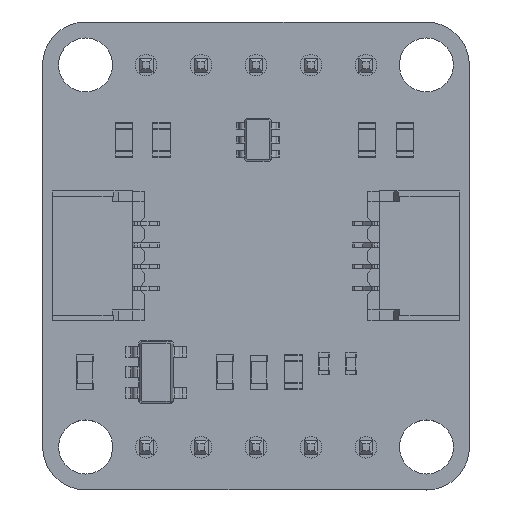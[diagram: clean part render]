
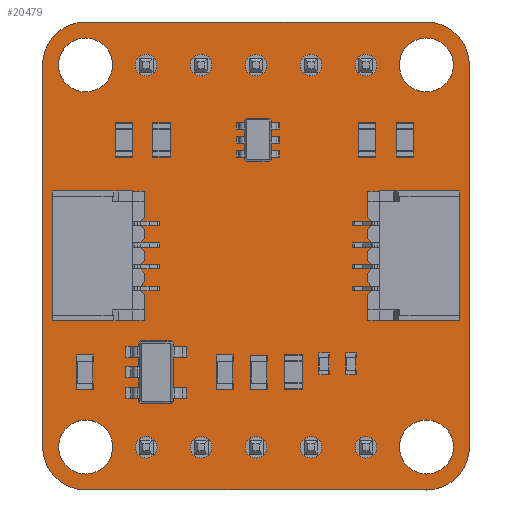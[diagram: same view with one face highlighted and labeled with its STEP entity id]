
A CAD part, top view. The second image highlights one B-rep face of the part: STEP entity #20479.
In plain terms, the highlighted planar face has unit normal (0, 0, 1).
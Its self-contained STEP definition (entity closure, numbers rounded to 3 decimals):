
#20176 = VERTEX_POINT('',#20177);
#20177 = CARTESIAN_POINT('',(154.494,-58.801,1.6));
#20183 = EDGE_CURVE('',#20176,#20184,#20186,.T.);
#20184 = VERTEX_POINT('',#20185);
#20185 = CARTESIAN_POINT('',(156.48,-60.787,1.6));
#20186 = CIRCLE('',#20187,1.986);
#20187 = AXIS2_PLACEMENT_3D('',#20188,#20189,#20190);
#20188 = CARTESIAN_POINT('',(154.494,-60.787,1.6));
#20189 = DIRECTION('',(0.,0.,-1.));
#20190 = DIRECTION('',(0.,1.,0.));
#20218 = VERTEX_POINT('',#20219);
#20219 = CARTESIAN_POINT('',(138.735,-58.801,1.6));
#20225 = EDGE_CURVE('',#20218,#20176,#20226,.T.);
#20226 = LINE('',#20227,#20228);
#20227 = CARTESIAN_POINT('',(138.735,-58.801,1.6));
#20228 = VECTOR('',#20229,1.);
#20229 = DIRECTION('',(1.,0.,0.));
#20247 = EDGE_CURVE('',#20184,#20248,#20250,.T.);
#20248 = VERTEX_POINT('',#20249);
#20249 = CARTESIAN_POINT('',(156.486,-78.452,1.6));
#20250 = LINE('',#20251,#20252);
#20251 = CARTESIAN_POINT('',(156.48,-60.787,1.6));
#20252 = VECTOR('',#20253,1.);
#20253 = DIRECTION('',(0.,-1.,0.));
#20479 = ADVANCED_FACE('',(#20480,#20526,#20537,#20548,#20559,#20570,
    #20581,#20592,#20603,#20614,#20625,#20636,#20647,#20658,#20669),
  #20680,.T.);
#20480 = FACE_BOUND('',#20481,.T.);
#20481 = EDGE_LOOP('',(#20482,#20483,#20484,#20493,#20501,#20510,#20518,
    #20525));
#20482 = ORIENTED_EDGE('',*,*,#20183,.F.);
#20483 = ORIENTED_EDGE('',*,*,#20225,.F.);
#20484 = ORIENTED_EDGE('',*,*,#20485,.F.);
#20485 = EDGE_CURVE('',#20486,#20218,#20488,.T.);
#20486 = VERTEX_POINT('',#20487);
#20487 = CARTESIAN_POINT('',(136.749,-60.787,1.6));
#20488 = CIRCLE('',#20489,1.986);
#20489 = AXIS2_PLACEMENT_3D('',#20490,#20491,#20492);
#20490 = CARTESIAN_POINT('',(138.735,-60.787,1.6));
#20491 = DIRECTION('',(0.,0.,-1.));
#20492 = DIRECTION('',(-1.,0.,-0.));
#20493 = ORIENTED_EDGE('',*,*,#20494,.F.);
#20494 = EDGE_CURVE('',#20495,#20486,#20497,.T.);
#20495 = VERTEX_POINT('',#20496);
#20496 = CARTESIAN_POINT('',(136.755,-78.452,1.6));
#20497 = LINE('',#20498,#20499);
#20498 = CARTESIAN_POINT('',(136.755,-78.452,1.6));
#20499 = VECTOR('',#20500,1.);
#20500 = DIRECTION('',(0.,1.,0.));
#20501 = ORIENTED_EDGE('',*,*,#20502,.F.);
#20502 = EDGE_CURVE('',#20503,#20495,#20505,.T.);
#20503 = VERTEX_POINT('',#20504);
#20504 = CARTESIAN_POINT('',(138.741,-80.438,1.6));
#20505 = CIRCLE('',#20506,1.986);
#20506 = AXIS2_PLACEMENT_3D('',#20507,#20508,#20509);
#20507 = CARTESIAN_POINT('',(138.741,-78.452,1.6));
#20508 = DIRECTION('',(0.,0.,-1.));
#20509 = DIRECTION('',(0.,-1.,-0.));
#20510 = ORIENTED_EDGE('',*,*,#20511,.F.);
#20511 = EDGE_CURVE('',#20512,#20503,#20514,.T.);
#20512 = VERTEX_POINT('',#20513);
#20513 = CARTESIAN_POINT('',(154.5,-80.438,1.6));
#20514 = LINE('',#20515,#20516);
#20515 = CARTESIAN_POINT('',(154.5,-80.438,1.6));
#20516 = VECTOR('',#20517,1.);
#20517 = DIRECTION('',(-1.,0.,0.));
#20518 = ORIENTED_EDGE('',*,*,#20519,.F.);
#20519 = EDGE_CURVE('',#20248,#20512,#20520,.T.);
#20520 = CIRCLE('',#20521,1.986);
#20521 = AXIS2_PLACEMENT_3D('',#20522,#20523,#20524);
#20522 = CARTESIAN_POINT('',(154.5,-78.452,1.6));
#20523 = DIRECTION('',(0.,0.,-1.));
#20524 = DIRECTION('',(1.,0.,0.));
#20525 = ORIENTED_EDGE('',*,*,#20247,.F.);
#20526 = FACE_BOUND('',#20527,.T.);
#20527 = EDGE_LOOP('',(#20528));
#20528 = ORIENTED_EDGE('',*,*,#20529,.T.);
#20529 = EDGE_CURVE('',#20530,#20530,#20532,.T.);
#20530 = VERTEX_POINT('',#20531);
#20531 = CARTESIAN_POINT('',(138.741,-79.702,1.6));
#20532 = CIRCLE('',#20533,1.25);
#20533 = AXIS2_PLACEMENT_3D('',#20534,#20535,#20536);
#20534 = CARTESIAN_POINT('',(138.741,-78.452,1.6));
#20535 = DIRECTION('',(-0.,0.,-1.));
#20536 = DIRECTION('',(-0.,-1.,0.));
#20537 = FACE_BOUND('',#20538,.T.);
#20538 = EDGE_LOOP('',(#20539));
#20539 = ORIENTED_EDGE('',*,*,#20540,.T.);
#20540 = EDGE_CURVE('',#20541,#20541,#20543,.T.);
#20541 = VERTEX_POINT('',#20542);
#20542 = CARTESIAN_POINT('',(141.542,-78.967,1.6));
#20543 = CIRCLE('',#20544,0.5);
#20544 = AXIS2_PLACEMENT_3D('',#20545,#20546,#20547);
#20545 = CARTESIAN_POINT('',(141.542,-78.467,1.6));
#20546 = DIRECTION('',(-0.,0.,-1.));
#20547 = DIRECTION('',(-0.,-1.,0.));
#20548 = FACE_BOUND('',#20549,.T.);
#20549 = EDGE_LOOP('',(#20550));
#20550 = ORIENTED_EDGE('',*,*,#20551,.T.);
#20551 = EDGE_CURVE('',#20552,#20552,#20554,.T.);
#20552 = VERTEX_POINT('',#20553);
#20553 = CARTESIAN_POINT('',(144.082,-78.967,1.6));
#20554 = CIRCLE('',#20555,0.5);
#20555 = AXIS2_PLACEMENT_3D('',#20556,#20557,#20558);
#20556 = CARTESIAN_POINT('',(144.082,-78.467,1.6));
#20557 = DIRECTION('',(-0.,0.,-1.));
#20558 = DIRECTION('',(-0.,-1.,0.));
#20559 = FACE_BOUND('',#20560,.T.);
#20560 = EDGE_LOOP('',(#20561));
#20561 = ORIENTED_EDGE('',*,*,#20562,.T.);
#20562 = EDGE_CURVE('',#20563,#20563,#20565,.T.);
#20563 = VERTEX_POINT('',#20564);
#20564 = CARTESIAN_POINT('',(146.622,-78.967,1.6));
#20565 = CIRCLE('',#20566,0.5);
#20566 = AXIS2_PLACEMENT_3D('',#20567,#20568,#20569);
#20567 = CARTESIAN_POINT('',(146.622,-78.467,1.6));
#20568 = DIRECTION('',(-0.,0.,-1.));
#20569 = DIRECTION('',(-0.,-1.,0.));
#20570 = FACE_BOUND('',#20571,.T.);
#20571 = EDGE_LOOP('',(#20572));
#20572 = ORIENTED_EDGE('',*,*,#20573,.T.);
#20573 = EDGE_CURVE('',#20574,#20574,#20576,.T.);
#20574 = VERTEX_POINT('',#20575);
#20575 = CARTESIAN_POINT('',(149.162,-78.967,1.6));
#20576 = CIRCLE('',#20577,0.5);
#20577 = AXIS2_PLACEMENT_3D('',#20578,#20579,#20580);
#20578 = CARTESIAN_POINT('',(149.162,-78.467,1.6));
#20579 = DIRECTION('',(-0.,0.,-1.));
#20580 = DIRECTION('',(-0.,-1.,0.));
#20581 = FACE_BOUND('',#20582,.T.);
#20582 = EDGE_LOOP('',(#20583));
#20583 = ORIENTED_EDGE('',*,*,#20584,.T.);
#20584 = EDGE_CURVE('',#20585,#20585,#20587,.T.);
#20585 = VERTEX_POINT('',#20586);
#20586 = CARTESIAN_POINT('',(151.702,-78.967,1.6));
#20587 = CIRCLE('',#20588,0.5);
#20588 = AXIS2_PLACEMENT_3D('',#20589,#20590,#20591);
#20589 = CARTESIAN_POINT('',(151.702,-78.467,1.6));
#20590 = DIRECTION('',(-0.,0.,-1.));
#20591 = DIRECTION('',(-0.,-1.,0.));
#20592 = FACE_BOUND('',#20593,.T.);
#20593 = EDGE_LOOP('',(#20594));
#20594 = ORIENTED_EDGE('',*,*,#20595,.T.);
#20595 = EDGE_CURVE('',#20596,#20596,#20598,.T.);
#20596 = VERTEX_POINT('',#20597);
#20597 = CARTESIAN_POINT('',(154.5,-79.702,1.6));
#20598 = CIRCLE('',#20599,1.25);
#20599 = AXIS2_PLACEMENT_3D('',#20600,#20601,#20602);
#20600 = CARTESIAN_POINT('',(154.5,-78.452,1.6));
#20601 = DIRECTION('',(-0.,0.,-1.));
#20602 = DIRECTION('',(-0.,-1.,0.));
#20603 = FACE_BOUND('',#20604,.T.);
#20604 = EDGE_LOOP('',(#20605));
#20605 = ORIENTED_EDGE('',*,*,#20606,.T.);
#20606 = EDGE_CURVE('',#20607,#20607,#20609,.T.);
#20607 = VERTEX_POINT('',#20608);
#20608 = CARTESIAN_POINT('',(138.735,-62.037,1.6));
#20609 = CIRCLE('',#20610,1.25);
#20610 = AXIS2_PLACEMENT_3D('',#20611,#20612,#20613);
#20611 = CARTESIAN_POINT('',(138.735,-60.787,1.6));
#20612 = DIRECTION('',(-0.,0.,-1.));
#20613 = DIRECTION('',(-0.,-1.,0.));
#20614 = FACE_BOUND('',#20615,.T.);
#20615 = EDGE_LOOP('',(#20616));
#20616 = ORIENTED_EDGE('',*,*,#20617,.T.);
#20617 = EDGE_CURVE('',#20618,#20618,#20620,.T.);
#20618 = VERTEX_POINT('',#20619);
#20619 = CARTESIAN_POINT('',(141.537,-61.297,1.6));
#20620 = CIRCLE('',#20621,0.5);
#20621 = AXIS2_PLACEMENT_3D('',#20622,#20623,#20624);
#20622 = CARTESIAN_POINT('',(141.537,-60.797,1.6));
#20623 = DIRECTION('',(-0.,0.,-1.));
#20624 = DIRECTION('',(-0.,-1.,0.));
#20625 = FACE_BOUND('',#20626,.T.);
#20626 = EDGE_LOOP('',(#20627));
#20627 = ORIENTED_EDGE('',*,*,#20628,.T.);
#20628 = EDGE_CURVE('',#20629,#20629,#20631,.T.);
#20629 = VERTEX_POINT('',#20630);
#20630 = CARTESIAN_POINT('',(144.077,-61.297,1.6));
#20631 = CIRCLE('',#20632,0.5);
#20632 = AXIS2_PLACEMENT_3D('',#20633,#20634,#20635);
#20633 = CARTESIAN_POINT('',(144.077,-60.797,1.6));
#20634 = DIRECTION('',(-0.,0.,-1.));
#20635 = DIRECTION('',(-0.,-1.,0.));
#20636 = FACE_BOUND('',#20637,.T.);
#20637 = EDGE_LOOP('',(#20638));
#20638 = ORIENTED_EDGE('',*,*,#20639,.T.);
#20639 = EDGE_CURVE('',#20640,#20640,#20642,.T.);
#20640 = VERTEX_POINT('',#20641);
#20641 = CARTESIAN_POINT('',(146.617,-61.297,1.6));
#20642 = CIRCLE('',#20643,0.5);
#20643 = AXIS2_PLACEMENT_3D('',#20644,#20645,#20646);
#20644 = CARTESIAN_POINT('',(146.617,-60.797,1.6));
#20645 = DIRECTION('',(-0.,0.,-1.));
#20646 = DIRECTION('',(-0.,-1.,0.));
#20647 = FACE_BOUND('',#20648,.T.);
#20648 = EDGE_LOOP('',(#20649));
#20649 = ORIENTED_EDGE('',*,*,#20650,.T.);
#20650 = EDGE_CURVE('',#20651,#20651,#20653,.T.);
#20651 = VERTEX_POINT('',#20652);
#20652 = CARTESIAN_POINT('',(149.157,-61.297,1.6));
#20653 = CIRCLE('',#20654,0.5);
#20654 = AXIS2_PLACEMENT_3D('',#20655,#20656,#20657);
#20655 = CARTESIAN_POINT('',(149.157,-60.797,1.6));
#20656 = DIRECTION('',(-0.,0.,-1.));
#20657 = DIRECTION('',(-0.,-1.,0.));
#20658 = FACE_BOUND('',#20659,.T.);
#20659 = EDGE_LOOP('',(#20660));
#20660 = ORIENTED_EDGE('',*,*,#20661,.T.);
#20661 = EDGE_CURVE('',#20662,#20662,#20664,.T.);
#20662 = VERTEX_POINT('',#20663);
#20663 = CARTESIAN_POINT('',(151.697,-61.297,1.6));
#20664 = CIRCLE('',#20665,0.5);
#20665 = AXIS2_PLACEMENT_3D('',#20666,#20667,#20668);
#20666 = CARTESIAN_POINT('',(151.697,-60.797,1.6));
#20667 = DIRECTION('',(-0.,0.,-1.));
#20668 = DIRECTION('',(-0.,-1.,0.));
#20669 = FACE_BOUND('',#20670,.T.);
#20670 = EDGE_LOOP('',(#20671));
#20671 = ORIENTED_EDGE('',*,*,#20672,.T.);
#20672 = EDGE_CURVE('',#20673,#20673,#20675,.T.);
#20673 = VERTEX_POINT('',#20674);
#20674 = CARTESIAN_POINT('',(154.494,-62.037,1.6));
#20675 = CIRCLE('',#20676,1.25);
#20676 = AXIS2_PLACEMENT_3D('',#20677,#20678,#20679);
#20677 = CARTESIAN_POINT('',(154.494,-60.787,1.6));
#20678 = DIRECTION('',(-0.,0.,-1.));
#20679 = DIRECTION('',(-0.,-1.,0.));
#20680 = PLANE('',#20681);
#20681 = AXIS2_PLACEMENT_3D('',#20682,#20683,#20684);
#20682 = CARTESIAN_POINT('',(0.,0.,1.6));
#20683 = DIRECTION('',(0.,0.,1.));
#20684 = DIRECTION('',(1.,0.,-0.));
